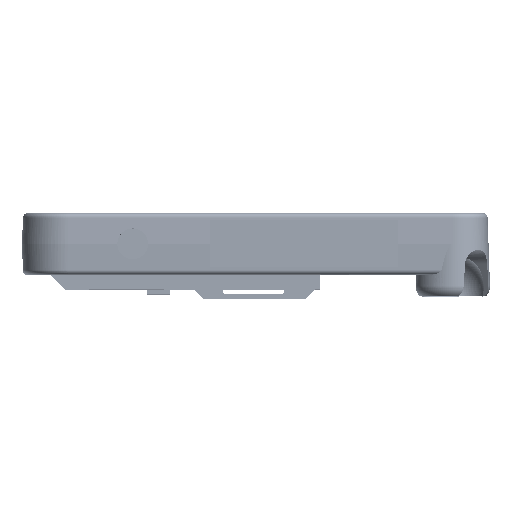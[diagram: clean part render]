
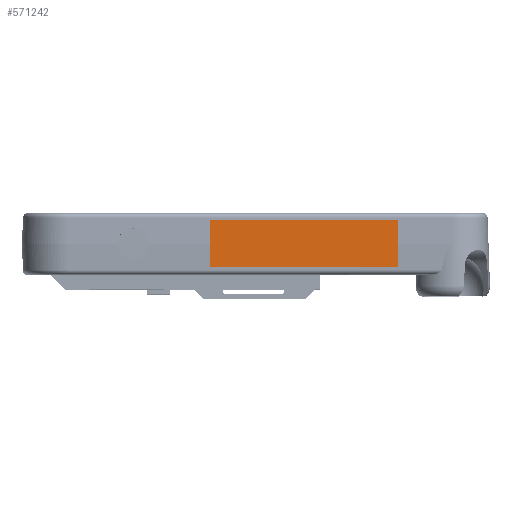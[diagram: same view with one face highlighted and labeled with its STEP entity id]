
A CAD part, top view. The second image highlights one B-rep face of the part: STEP entity #571242.
In plain terms, the highlighted planar face has unit normal (0, 0, 1).
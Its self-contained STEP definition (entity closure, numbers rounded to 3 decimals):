
#144=FACE_OUTER_BOUND('',#51978,.T.);
#51978=EDGE_LOOP('',(#363955,#363956,#363957,#363958));
#103959=LINE('',#857041,#181875);
#103965=LINE('',#857053,#181881);
#104008=LINE('',#857139,#181924);
#104009=LINE('',#857140,#181925);
#181875=VECTOR('',#675368,10.);
#181881=VECTOR('',#675376,10.);
#181924=VECTOR('',#675421,10.);
#181925=VECTOR('',#675422,10.);
#259701=VERTEX_POINT('',#857038);
#259702=VERTEX_POINT('',#857040);
#259707=VERTEX_POINT('',#857052);
#259749=VERTEX_POINT('',#857138);
#285807=EDGE_CURVE('',#259701,#259702,#103959,.T.);
#285813=EDGE_CURVE('',#259702,#259707,#103965,.T.);
#285856=EDGE_CURVE('',#259749,#259701,#104008,.T.);
#285857=EDGE_CURVE('',#259707,#259749,#104009,.T.);
#363955=ORIENTED_EDGE('',*,*,#285813,.F.);
#363956=ORIENTED_EDGE('',*,*,#285807,.F.);
#363957=ORIENTED_EDGE('',*,*,#285856,.F.);
#363958=ORIENTED_EDGE('',*,*,#285857,.F.);
#519408=PLANE('',#623175);
#571242=ADVANCED_FACE('',(#144),#519408,.F.);
#623175=AXIS2_PLACEMENT_3D('',#857137,#675419,#675420);
#675368=DIRECTION('',(1.,0.,0.));
#675376=DIRECTION('',(0.,-1.,0.));
#675419=DIRECTION('center_axis',(0.,0.,-1.));
#675420=DIRECTION('ref_axis',(-1.,0.,0.));
#675421=DIRECTION('',(0.,1.,0.));
#675422=DIRECTION('',(-1.,0.,0.));
#857038=CARTESIAN_POINT('',(71.265,9.652,18.05));
#857040=CARTESIAN_POINT('',(148.735,9.652,18.05));
#857041=CARTESIAN_POINT('',(148.735,9.652,18.05));
#857052=CARTESIAN_POINT('',(148.735,-9.652,18.05));
#857053=CARTESIAN_POINT('',(148.735,-9.652,18.05));
#857137=CARTESIAN_POINT('Origin',(110.,0.,
18.05));
#857138=CARTESIAN_POINT('',(71.265,-9.652,18.05));
#857139=CARTESIAN_POINT('',(71.265,9.652,18.05));
#857140=CARTESIAN_POINT('',(71.265,-9.652,18.05));
